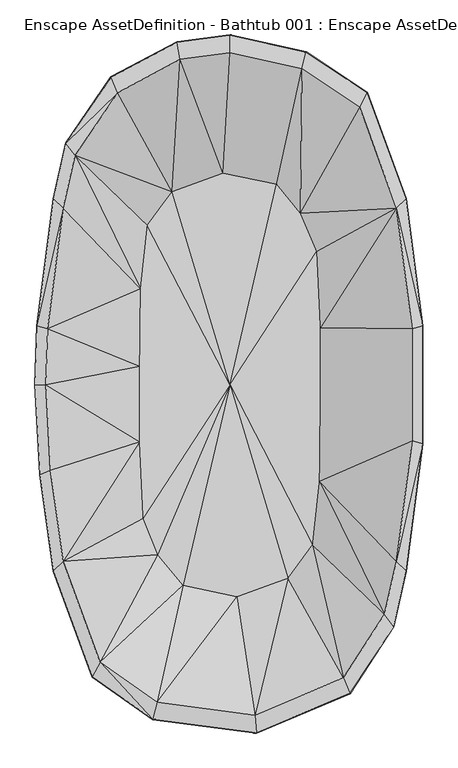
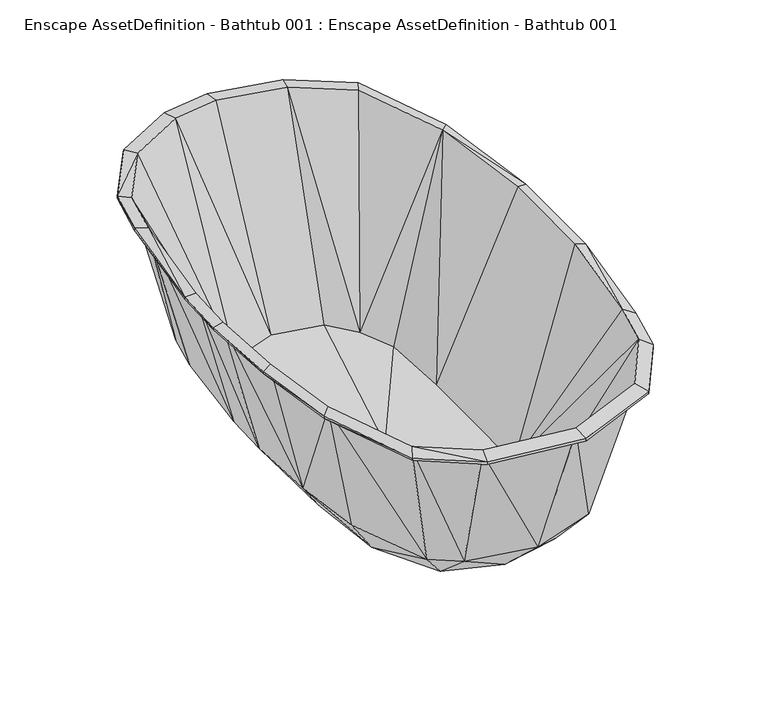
"""IFC4 building model written with IfcOpenShell, lengths in millimetres: geographic element geometry, Enscape AssetDefinition - Bathtub 001 : Enscape AssetDefinition - Bathtub 001."""

from ifc_helpers import new_model, si_unit, origin, place, context, project, spatial, triangles, source, transform, mapped, element, save


def enscape_assetdefinition_bathtub_001_enscape_assetdefinition_a450a732(model_context):
    return source(origin(), model_context, "Body", "Tessellation", [
        triangles([(-168.667866, -692.542757, 147.3606364), (-188.7001462, -820.9610813, 565.9683972), (65.0196459, -854.1708275, 566.0044052), (-199.6067116, -862.9755226, 561.9885166), (25.3080596, -731.7613661, 147.7746101), (-21.6572309, -643.6025757, 57.8448931), (144.252732, -609.6527584, 57.705889), (209.7783473, -667.3466206, 147.1456332), (293.9443036, -757.7714064, 565.9033576), (247.4019592, -503.9756332, 57.6118768), (312.5905855, -519.8100228, 146.7346209), (400.6913853, -592.7663981, 565.8393353), (423.3535558, -624.1712763, 562.0424741), (68.7914951, -897.7602453, 561.989534), (310.8206717, -796.8419867, 561.9914598), (423.0766105, -623.0523039, 568.402224), (456.0663846, -480.2905237, 562.0824789), (310.4297072, -795.6439493, 568.3922682), (64.8276337, -851.5399561, 575.1850585), (293.0233569, -755.77647, 575.1849858), (149.4945269, -498.345817, 44.3083738), (455.8384189, -479.3915597, 568.4102903), (399.4104678, -591.7884055, 575.1849858), (430.3573797, -455.3274035, 575.1849858), (230.7885837, -248.3659628, 44.2503695), (212.9342229, -411.8519686, 44.2713757), (18.1453189, -545.992073, 44.3533837), (-188.1281426, -818.5421883, 575.1850585), (-120.528626, -517.0931828, 44.3233938), (-199.3137425, -861.7096842, 568.3922682), (68.6834984, -896.445282, 568.3922682), (-355.178066, -752.7985268, 568.3943029), (-455.833332, -479.3925044, 568.4103267), (-335.2748114, -715.0669636, 575.1850585), (-185.9612509, -438.3200114, 44.281395), (-223.9948487, -343.7694963, 44.2614063), (-463.2570794, -219.7239611, 575.1850585), (-430.3522565, -455.3284209, 575.1850585), (-490.6720848, -231.3395494, 568.4203551), (-233.2445021, -146.8076451, 44.2384107), (-502.9616326, -0.00098, 568.4233346), (-474.86164, -0.00098, 575.1850585), (-503.1476678, -0.00098, 562.1425406), (-470.4688122, 144.7167571, 575.1850585), (-430.3522565, 455.3264225, 575.1850585), (-232.9135085, 48.5662398, 44.230408), (-230.7835876, 248.3649636, 44.2504058), (-212.9292269, 411.8500065, 44.2713938), (-399.4053809, 591.7874608, 575.1850585), (-455.833332, 479.3905787, 568.4103267), (-149.4895218, 498.3438549, 44.3083965), (-289.4333871, 752.8215631, 575.1850585), (-18.1403081, 545.9901109, 44.3533837), (-135.6779829, 883.3088018, 568.3922682), (-128.0622504, 839.06143, 575.1850585), (0.0019999, -0.001, 33.1977897), (0.0030799, 855.7668056, 575.1850585), (185.8312988, 814.819305, 575.1850585), (0.0030799, 900.895083, 568.3922682), (196.8789166, 857.7917547, 568.3922682), (0.0030799, 902.2161507, 561.990515), (335.2808793, 715.0649288, 575.1849858), (181.6294114, 442.1138932, 44.2813678), (120.5336221, 517.0911481, 44.3233756), (355.1831165, 752.7975821, 568.3942303), (455.8384552, 479.390506, 568.4102903), (355.5711379, 753.9744724, 561.9994898), (197.1608943, 859.0546864, 561.989534), (336.3458216, 716.756904, 565.8733812), (498.3128612, 152.3674257, 568.4222445), (456.0654399, 480.288489, 562.0824789), (431.7553685, 455.9853939, 565.8663686), (471.9998234, 144.8976963, 565.9043023), (498.4988963, 152.6674255, 562.1385075), (498.3128612, -152.3694695, 568.4222445), (430.3573797, 455.3264225, 575.1849858), (498.4988963, -152.6694603, 562.1385075), (470.472918, -144.7177382, 575.1849858), (472.0008408, -144.8967425, 565.9043023), (364.6097214, -136.2750486, 146.1426512), (431.7572943, -455.986375, 565.8653512), (299.617086, 179.0254642, 57.3558786), (364.616734, 136.2140149, 146.155641), (220.0479784, 138.6549451, 8.9006553), (303.1419435, -59.6518458, 57.2408965), (335.5577883, 408.2071329, 146.5916518), (214.3662213, 328.3600445, 8.9726531), (245.7850702, 636.9058187, 146.9636222), (100.4573584, 615.6745565, 57.7448856), (276.309933, 409.4480819, 57.5978787), (218.659037, -45.7723424, 8.8716571), (0.0019999, -0.001, 1.286953), (290.6503913, -299.2681247, 57.4928751), (219.3500014, -235.9134162, 8.9536544), (196.1228399, -408.6931134, 8.9746526), (116.0067545, -497.6498929, 8.9396637), (-17.4533837, -525.6648617, 8.9546741), (-179.2474892, -587.7505706, 57.6459227), (-143.8727861, -479.3945392, 8.9336849), (-214.3612071, -328.3620066, 8.9726922), (-276.3049551, -409.450044, 57.5979241), (-245.780056, -636.9077808, 146.9636676), (-335.552774, -408.208114, 146.5916972), (-431.7512263, -455.986375, 565.8674223), (-359.407895, -204.2795187, 146.2686973), (-464.7680337, -220.0069562, 565.8994334), (-476.3866196, -0.0019799, 565.8994334), (-299.6120718, -179.0274626, 57.3559331), (-303.1379648, 59.6498383, 57.2409329), (-220.0429823, -138.6569435, 8.9006962), (-367.7545876, 0.0360187, 146.0376976), (-471.9947728, 144.8927366, 565.9014682), (-364.6047071, 136.2730592, 146.1427057), (-498.4937731, 152.6684611, 562.1385438), (-431.7531884, 455.9833591, 565.8664049), (-456.0612977, 480.2885616, 562.0825879), (-335.5497219, 408.201174, 146.5706956), (-312.5856076, 519.8090781, 146.7346663), (-498.3087916, 152.3684703, 568.4223172), (-423.3494863, 624.1702589, 562.0425467), (-290.3423251, 754.7884489, 565.904375), (-400.6863347, 592.7674155, 565.8414428), (-236.0893684, 643.8905668, 147.0096586), (-195.8228401, 556.8127061, 57.6589079), (-135.8859644, 884.6037083, 561.989534), (-123.4804625, 711.9300911, 147.5506321), (-128.4442402, 841.6143265, 565.9893625), (-306.6227448, 792.5361448, 568.3933582), (-306.9957599, 793.7410131, 561.9945482), (-423.0714872, 623.0512865, 568.402333), (186.4002866, 817.2112375, 565.9653451), (0.0040799, 858.4226755, 566.0094194), (121.9905916, 708.8211239, 147.5286222), (-25.3030386, 731.7593313, 147.7746101), (80.6680685, 502.5277202, 8.9446643), (-156.0602962, 453.1695047, 8.9576842), (-219.3459864, 235.9124352, 8.9536941), (-290.6464126, 299.2661081, 57.4929251), (-218.6540228, 45.7703394, 8.8716969), (-490.8630979, -231.7895219, 562.1285517), (-456.061334, -480.2904874, 562.0825879), (-336.340771, -716.7598835, 565.8734539), (-355.5650336, -753.9765072, 561.9995625), (335.5547725, -408.2031361, 146.5716221), (470.472918, 144.7157125, 575.1849858), (232.9175235, -48.5672435, 44.2303716), (233.2495163, 146.8056467, 44.2383653), (223.9998629, 343.7674616, 44.2613699)], [[147, 148, 56], [76, 148, 147], [147, 145, 76], [146, 147, 56], [145, 147, 146], [146, 78, 145], [12, 11, 144], [4, 30, 32], [32, 143, 4], [4, 143, 142], [141, 143, 32], [142, 143, 141], [141, 104, 142], [104, 141, 140], [100, 110, 92], [109, 139, 110], [139, 92, 110], [139, 109, 138], [138, 137, 139], [137, 92, 139], [136, 92, 137], [136, 135, 92], [135, 136, 124], [124, 136, 137], [137, 138, 124], [134, 89, 124], [124, 89, 135], [134, 133, 89], [88, 89, 133], [88, 133, 131], [132, 131, 133], [133, 134, 132], [131, 132, 61], [129, 120, 130], [50, 130, 120], [130, 128, 129], [129, 128, 54], [54, 125, 129], [61, 132, 127], [127, 125, 61], [124, 126, 134], [132, 134, 126], [126, 127, 132], [121, 127, 126], [125, 127, 121], [121, 129, 125], [124, 123, 126], [126, 123, 121], [124, 118, 123], [138, 117, 118], [118, 124, 138], [123, 118, 122], [122, 121, 123], [129, 121, 122], [122, 120, 129], [120, 116, 50], [116, 120, 122], [119, 50, 116], [116, 114, 119], [115, 122, 118], [118, 117, 115], [122, 115, 116], [114, 116, 115], [138, 109, 113], [113, 117, 138], [115, 117, 113], [115, 112, 114], [113, 112, 115], [119, 114, 43], [43, 114, 112], [106, 140, 43], [140, 106, 104], [112, 107, 43], [43, 107, 106], [109, 111, 113], [111, 107, 112], [112, 113, 111], [110, 108, 109], [108, 110, 100], [111, 109, 108], [108, 105, 111], [107, 111, 105], [105, 106, 107], [104, 106, 105], [105, 103, 104], [104, 103, 102], [102, 142, 104], [142, 102, 1], [100, 101, 108], [101, 103, 105], [105, 108, 101], [102, 103, 101], [99, 100, 92], [101, 100, 99], [99, 98, 101], [101, 98, 102], [1, 102, 98], [1, 98, 6], [97, 99, 92], [98, 99, 97], [97, 6, 98], [96, 97, 92], [97, 96, 7], [7, 6, 97], [95, 96, 92], [7, 96, 95], [95, 10, 7], [11, 10, 93], [93, 144, 11], [95, 92, 94], [10, 95, 94], [94, 93, 10], [94, 92, 91], [93, 94, 91], [91, 92, 84], [135, 87, 92], [84, 92, 87], [135, 89, 90], [90, 87, 135], [90, 89, 88], [88, 86, 90], [82, 84, 87], [87, 90, 82], [82, 90, 86], [85, 91, 84], [84, 82, 85], [91, 85, 93], [86, 83, 82], [85, 82, 83], [83, 80, 85], [80, 144, 93], [93, 85, 80], [81, 144, 80], [144, 81, 12], [12, 81, 17], [79, 80, 83], [17, 81, 79], [80, 79, 81], [73, 83, 86], [83, 73, 79], [77, 79, 73], [79, 77, 17], [145, 78, 75], [17, 77, 75], [76, 145, 70], [75, 70, 145], [74, 70, 75], [75, 77, 74], [73, 74, 77], [72, 86, 88], [74, 73, 72], [86, 72, 73], [131, 69, 88], [88, 69, 72], [71, 72, 69], [72, 71, 74], [70, 66, 76], [66, 70, 74], [74, 71, 66], [66, 71, 67], [67, 69, 131], [69, 67, 71], [61, 68, 131], [131, 68, 67], [65, 67, 68], [67, 65, 66], [62, 76, 66], [66, 65, 62], [56, 148, 63], [63, 148, 76], [76, 62, 63], [63, 64, 56], [63, 62, 58], [58, 64, 63], [58, 62, 65], [60, 68, 61], [65, 60, 58], [68, 60, 65], [125, 54, 59], [59, 61, 125], [61, 59, 60], [64, 58, 57], [57, 58, 60], [60, 59, 57], [56, 64, 53], [57, 53, 64], [57, 55, 53], [59, 54, 55], [55, 57, 59], [54, 128, 52], [52, 55, 54], [52, 128, 130], [56, 53, 51], [51, 53, 55], [55, 52, 51], [56, 51, 48], [51, 52, 49], [49, 48, 51], [130, 49, 52], [49, 130, 50], [45, 50, 119], [50, 45, 49], [56, 48, 47], [49, 45, 47], [47, 48, 49], [56, 47, 46], [46, 47, 44], [45, 44, 47], [119, 44, 45], [44, 119, 41], [43, 41, 119], [41, 43, 140], [44, 42, 46], [41, 42, 44], [56, 46, 40], [40, 36, 56], [40, 46, 42], [42, 37, 40], [42, 41, 39], [39, 37, 42], [140, 39, 41], [140, 141, 33], [33, 39, 140], [32, 33, 141], [40, 37, 38], [38, 36, 40], [38, 37, 39], [39, 33, 38], [56, 36, 35], [35, 36, 38], [38, 34, 35], [33, 32, 34], [34, 38, 33], [34, 32, 30], [30, 28, 34], [31, 19, 28], [28, 30, 31], [35, 29, 56], [34, 28, 29], [29, 35, 34], [29, 27, 56], [28, 19, 27], [27, 29, 28], [27, 21, 56], [21, 27, 19], [21, 26, 56], [25, 146, 56], [26, 25, 56], [78, 146, 25], [25, 24, 78], [75, 78, 24], [24, 22, 75], [75, 22, 17], [25, 26, 23], [23, 24, 25], [22, 24, 23], [26, 21, 20], [20, 23, 26], [19, 20, 21], [20, 19, 31], [31, 18, 20], [23, 16, 22], [16, 23, 20], [20, 18, 16], [13, 17, 22], [22, 16, 13], [17, 13, 12], [16, 18, 15], [15, 13, 16], [15, 18, 31], [31, 14, 15], [14, 31, 30], [30, 4, 14], [13, 15, 9], [9, 12, 13], [9, 15, 14], [11, 12, 9], [10, 11, 8], [8, 7, 10], [9, 8, 11], [14, 3, 9], [3, 14, 4], [8, 9, 3], [5, 6, 7], [7, 8, 5], [6, 5, 1], [3, 5, 8], [142, 2, 4], [1, 2, 142], [4, 2, 3], [5, 3, 2], [2, 1, 5]]),
    ])


if __name__ == "__main__":
    model = new_model("IFC4")
    model_context = context("Model", 3, world=origin())
    ifc_project = project(units=[si_unit("LENGTHUNIT", "METRE", prefix="MILLI")], contexts=[model_context])
    site = spatial("IfcSite", under=ifc_project)
    building = spatial("IfcBuilding", under=site)
    placement = place(None, origin())
    enscape_assetdefinition_bathtub_001_enscape_assetdefinition_shape = enscape_assetdefinition_bathtub_001_enscape_assetdefinition_a450a732(model_context)
    element("IfcGeographicElement", 1, ObjectType="Enscape AssetDefinition - Bathtub 001 : Enscape AssetDefinition - Bathtub 001", at=placement, inside=building, context=model_context, shape_type="MappedRepresentation", body=[
        mapped(enscape_assetdefinition_bathtub_001_enscape_assetdefinition_shape, transform((0.0, 0.0, 0.0), x_axis=(1.0, 0.0, 0.0), y_axis=(0.0, 1.0, 0.0), z_axis=(0.0, 0.0, 1.0))),
    ])
    save(model, "model.ifc")
